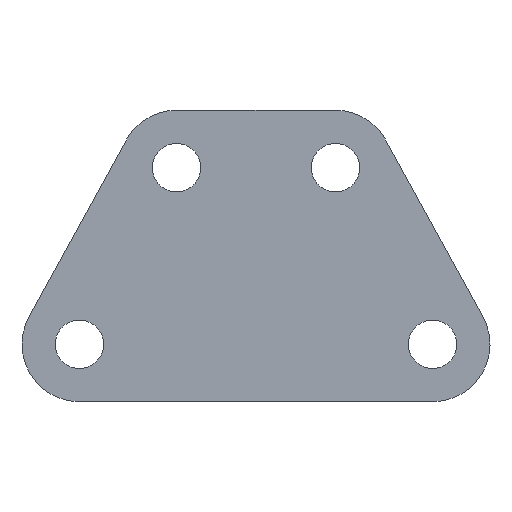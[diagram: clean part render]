
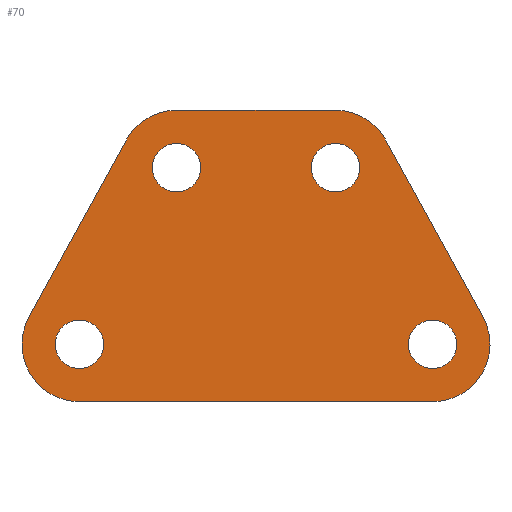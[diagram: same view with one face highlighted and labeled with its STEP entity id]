
A CAD part, front view. The second image highlights one B-rep face of the part: STEP entity #70.
In plain terms, the highlighted planar face has unit normal (0, -1, 0).
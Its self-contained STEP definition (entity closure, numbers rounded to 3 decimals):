
#42=FACE_BOUND('',#104,.T.);
#43=FACE_BOUND('',#105,.T.);
#44=FACE_BOUND('',#106,.T.);
#45=FACE_BOUND('',#107,.T.);
#46=FACE_BOUND('',#108,.T.);
#56=PLANE('',#311);
#70=ADVANCED_FACE('',(#42,#43,#44,#45,#46),#56,.T.);
#104=EDGE_LOOP('',(#186,#187,#188,#189,#190,#191,#192,#193));
#105=EDGE_LOOP('',(#194));
#106=EDGE_LOOP('',(#195));
#107=EDGE_LOOP('',(#196));
#108=EDGE_LOOP('',(#197));
#118=LINE('',#405,#134);
#122=LINE('',#417,#138);
#126=LINE('',#429,#142);
#129=LINE('',#453,#145);
#134=VECTOR('',#325,1.);
#138=VECTOR('',#337,1.);
#142=VECTOR('',#349,1.);
#145=VECTOR('',#378,1.);
#186=ORIENTED_EDGE('',*,*,#236,.T.);
#187=ORIENTED_EDGE('',*,*,#240,.T.);
#188=ORIENTED_EDGE('',*,*,#243,.T.);
#189=ORIENTED_EDGE('',*,*,#246,.T.);
#190=ORIENTED_EDGE('',*,*,#249,.T.);
#191=ORIENTED_EDGE('',*,*,#252,.T.);
#192=ORIENTED_EDGE('',*,*,#255,.T.);
#193=ORIENTED_EDGE('',*,*,#263,.T.);
#194=ORIENTED_EDGE('',*,*,#260,.T.);
#195=ORIENTED_EDGE('',*,*,#258,.T.);
#196=ORIENTED_EDGE('',*,*,#256,.F.);
#197=ORIENTED_EDGE('',*,*,#264,.F.);
#212=VERTEX_POINT('',#396);
#213=VERTEX_POINT('',#398);
#215=VERTEX_POINT('',#404);
#217=VERTEX_POINT('',#410);
#219=VERTEX_POINT('',#416);
#221=VERTEX_POINT('',#422);
#223=VERTEX_POINT('',#428);
#225=VERTEX_POINT('',#434);
#226=VERTEX_POINT('',#438);
#228=VERTEX_POINT('',#443);
#230=VERTEX_POINT('',#448);
#232=VERTEX_POINT('',#456);
#236=EDGE_CURVE('',#213,#212,#267,.T.);
#240=EDGE_CURVE('',#212,#215,#118,.T.);
#243=EDGE_CURVE('',#215,#217,#269,.T.);
#246=EDGE_CURVE('',#217,#219,#122,.T.);
#249=EDGE_CURVE('',#219,#221,#271,.T.);
#252=EDGE_CURVE('',#221,#223,#126,.T.);
#255=EDGE_CURVE('',#223,#225,#273,.T.);
#256=EDGE_CURVE('',#226,#226,#274,.T.);
#258=EDGE_CURVE('',#228,#228,#276,.T.);
#260=EDGE_CURVE('',#230,#230,#278,.T.);
#263=EDGE_CURVE('',#225,#213,#129,.T.);
#264=EDGE_CURVE('',#232,#232,#280,.T.);
#267=CIRCLE('',#284,6.5);
#269=CIRCLE('',#288,6.5);
#271=CIRCLE('',#292,6.5);
#273=CIRCLE('',#296,6.5);
#274=CIRCLE('',#298,2.75);
#276=CIRCLE('',#301,2.75);
#278=CIRCLE('',#304,2.75);
#280=CIRCLE('',#308,2.75);
#284=AXIS2_PLACEMENT_3D('',#397,#318,#319);
#288=AXIS2_PLACEMENT_3D('',#411,#331,#332);
#292=AXIS2_PLACEMENT_3D('',#423,#343,#344);
#296=AXIS2_PLACEMENT_3D('',#435,#355,#356);
#298=AXIS2_PLACEMENT_3D('',#437,#359,#360);
#301=AXIS2_PLACEMENT_3D('',#442,#365,#366);
#304=AXIS2_PLACEMENT_3D('',#447,#371,#372);
#308=AXIS2_PLACEMENT_3D('',#455,#381,#382);
#311=AXIS2_PLACEMENT_3D('',#460,#387,#388);
#318=DIRECTION('',(0.,-1.,0.));
#319=DIRECTION('',(1.,0.,0.));
#325=DIRECTION('',(-0.482,0.,-0.876));
#331=DIRECTION('',(0.,-1.,0.));
#332=DIRECTION('',(1.,0.,0.));
#337=DIRECTION('',(1.,0.,0.));
#343=DIRECTION('',(0.,-1.,0.));
#344=DIRECTION('',(-1.,0.,0.));
#349=DIRECTION('',(-0.482,0.,0.876));
#355=DIRECTION('',(0.,-1.,0.));
#356=DIRECTION('',(-1.,0.,0.));
#359=DIRECTION('',(0.,-1.,0.));
#360=DIRECTION('',(1.,0.,0.));
#365=DIRECTION('',(0.,1.,0.));
#366=DIRECTION('',(-1.,0.,0.));
#371=DIRECTION('',(0.,1.,0.));
#372=DIRECTION('',(-1.,0.,0.));
#378=DIRECTION('',(-1.,0.,0.));
#381=DIRECTION('',(0.,-1.,0.));
#382=DIRECTION('',(1.,0.,0.));
#387=DIRECTION('',(0.,-1.,0.));
#388=DIRECTION('',(0.,0.,-1.));
#396=CARTESIAN_POINT('',(-14.695,-5.,23.132));
#397=CARTESIAN_POINT('',(-9.,-5.,20.));
#398=CARTESIAN_POINT('',(-9.,-5.,26.5));
#404=CARTESIAN_POINT('',(-25.695,-5.,3.132));
#405=CARTESIAN_POINT('',(-14.695,-5.,23.132));
#410=CARTESIAN_POINT('',(-20.,-5.,-6.5));
#411=CARTESIAN_POINT('',(-20.,-5.,0.));
#416=CARTESIAN_POINT('',(20.,-5.,-6.5));
#417=CARTESIAN_POINT('',(-20.,-5.,-6.5));
#422=CARTESIAN_POINT('',(25.695,-5.,3.132));
#423=CARTESIAN_POINT('',(20.,-5.,0.));
#428=CARTESIAN_POINT('',(14.695,-5.,23.132));
#429=CARTESIAN_POINT('',(25.695,-5.,3.132));
#434=CARTESIAN_POINT('',(9.,-5.,26.5));
#435=CARTESIAN_POINT('',(9.,-5.,20.));
#437=CARTESIAN_POINT('',(-20.,-5.,0.));
#438=CARTESIAN_POINT('',(-17.25,-5.,0.));
#442=CARTESIAN_POINT('',(9.,-5.,20.));
#443=CARTESIAN_POINT('',(6.25,-5.,20.));
#447=CARTESIAN_POINT('',(20.,-5.,0.));
#448=CARTESIAN_POINT('',(17.25,-5.,0.));
#453=CARTESIAN_POINT('',(9.,-5.,26.5));
#455=CARTESIAN_POINT('',(-9.,-5.,20.));
#456=CARTESIAN_POINT('',(-6.25,-5.,20.));
#460=CARTESIAN_POINT('',(-9.,-5.,20.));
